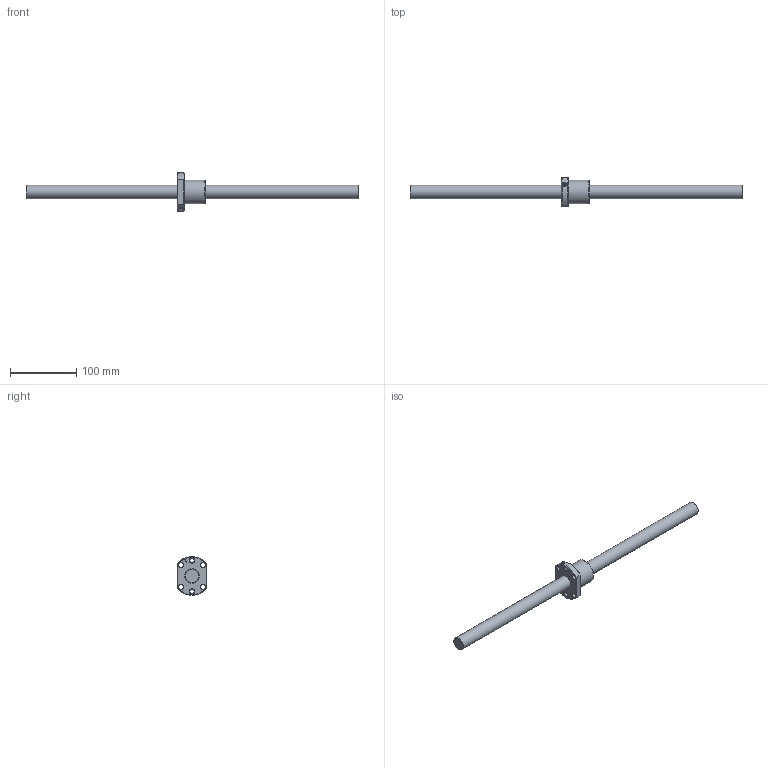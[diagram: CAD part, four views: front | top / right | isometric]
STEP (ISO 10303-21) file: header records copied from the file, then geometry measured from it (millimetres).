
FILE_DESCRIPTION (( 'STEP AP203' ), '1' );
FILE_NAME ('SFU02004D-4.step', '2024-05-14T07:04:37', ( '' ), ( '' ), 'SwSTEP 2.0', 'SolidWorks 2022', '' );
FILE_SCHEMA (( 'CONFIG_CONTROL_DESIGN' ));
Length unit declared in the file: millimetre
Products named in the file (1): SFU02004D-4
Bounding box: 500 x 44 x 58 mm (x, y, z)
Volume: 194497.8 mm3; surface area: 44932.8 mm2
Topology: 2 solids, 2 shells, 54 faces, 132 edges, 83 vertices
Faces by surface type: cylinder 19, cone 13, plane 12, bspline 5, torus 5
Full cylindrical faces by diameter (mm): 4 x1, 5 x6, 6.6 x6, 20 x1, 21.6 x1, 36 x1
Entity records: 3113 total; most frequent: CARTESIAN_POINT 2077, DIRECTION 186, ORIENTED_EDGE 166, EDGE_LOOP 90, AXIS2_PLACEMENT_3D 85, EDGE_CURVE 83, VERTEX_POINT 67, FACE_OUTER_BOUND 60
